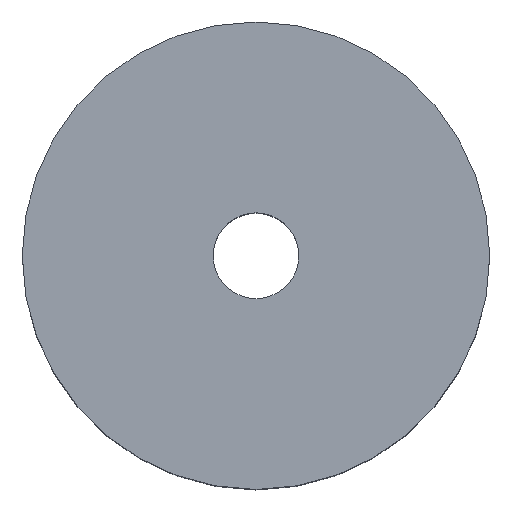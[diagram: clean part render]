
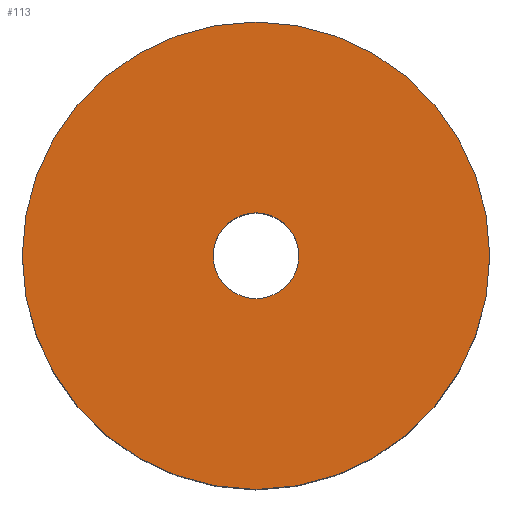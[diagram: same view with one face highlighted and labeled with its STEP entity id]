
A CAD part, top view. The second image highlights one B-rep face of the part: STEP entity #113.
In plain terms, the highlighted planar face has unit normal (0, 0, 1).
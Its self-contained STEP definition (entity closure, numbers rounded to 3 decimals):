
#113=ADVANCED_FACE('',(#121,#122),#119,.T.);
#119=PLANE('',#190);
#121=FACE_BOUND('',#125,.T.);
#122=FACE_BOUND('',#126,.T.);
#125=EDGE_LOOP('',(#133,#134));
#126=EDGE_LOOP('',(#135,#136));
#133=ORIENTED_EDGE('',*,*,#165,.T.);
#134=ORIENTED_EDGE('',*,*,#166,.T.);
#135=ORIENTED_EDGE('',*,*,#167,.F.);
#136=ORIENTED_EDGE('',*,*,#168,.F.);
#157=VERTEX_POINT('',#236);
#158=VERTEX_POINT('',#237);
#159=VERTEX_POINT('',#240);
#160=VERTEX_POINT('',#241);
#165=EDGE_CURVE('',#157,#158,#177,.T.);
#166=EDGE_CURVE('',#158,#157,#178,.T.);
#167=EDGE_CURVE('',#159,#160,#179,.T.);
#168=EDGE_CURVE('',#160,#159,#180,.T.);
#177=CIRCLE('',#186,60.);
#178=CIRCLE('',#187,60.);
#179=CIRCLE('',#188,11.);
#180=CIRCLE('',#189,11.);
#186=AXIS2_PLACEMENT_3D('',#235,#202,#203);
#187=AXIS2_PLACEMENT_3D('',#238,#204,#205);
#188=AXIS2_PLACEMENT_3D('',#239,#206,#207);
#189=AXIS2_PLACEMENT_3D('',#242,#208,#209);
#190=AXIS2_PLACEMENT_3D('',#243,#210,#211);
#202=DIRECTION('',(0.,0.,1.));
#203=DIRECTION('',(0.,1.,0.));
#204=DIRECTION('',(0.,0.,1.));
#205=DIRECTION('',(0.,-1.,0.));
#206=DIRECTION('',(0.,0.,1.));
#207=DIRECTION('',(0.,-1.,0.));
#208=DIRECTION('',(0.,0.,1.));
#209=DIRECTION('',(0.,1.,0.));
#210=DIRECTION('',(0.,0.,1.));
#211=DIRECTION('',(0.,1.,0.));
#235=CARTESIAN_POINT('',(0.,0.,80.));
#236=CARTESIAN_POINT('',(-60.,0.,80.));
#237=CARTESIAN_POINT('',(60.,0.,80.));
#238=CARTESIAN_POINT('',(0.,0.,80.));
#239=CARTESIAN_POINT('',(0.,0.,80.));
#240=CARTESIAN_POINT('',(11.,0.,80.));
#241=CARTESIAN_POINT('',(-11.,0.,80.));
#242=CARTESIAN_POINT('',(0.,0.,80.));
#243=CARTESIAN_POINT('',(0.,0.,80.));
